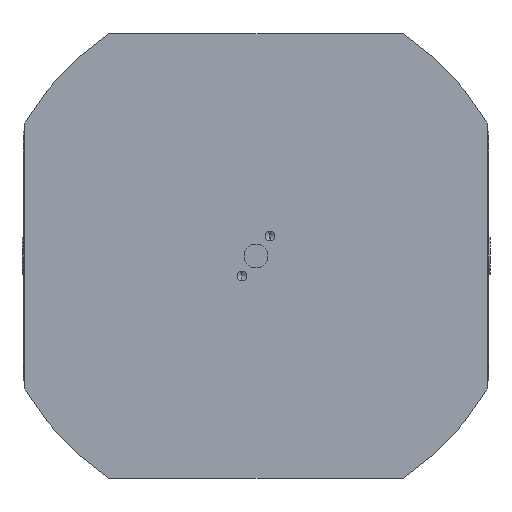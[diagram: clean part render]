
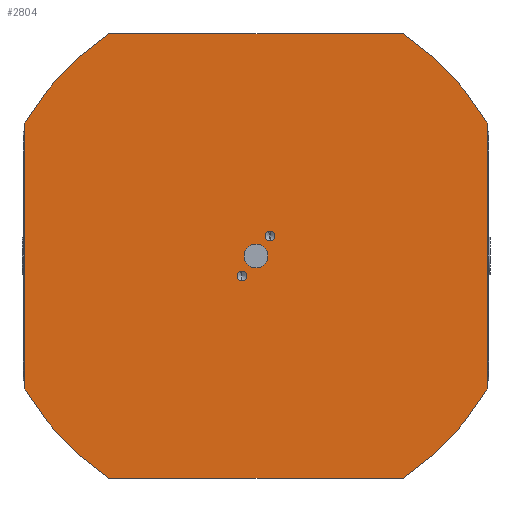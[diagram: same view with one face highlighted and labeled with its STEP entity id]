
A CAD part, front view. The second image highlights one B-rep face of the part: STEP entity #2804.
In plain terms, the highlighted planar face has unit normal (0, -1, 0).
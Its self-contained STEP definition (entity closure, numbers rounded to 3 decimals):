
#1 = CARTESIAN_POINT ( 'NONE',  ( 0., 0., 0. ) ) ;
#22 = ORIENTED_EDGE ( 'NONE', *, *, #2160, .F. ) ;
#27 = DIRECTION ( 'NONE',  ( 0., 0., 1. ) ) ;
#82 = EDGE_CURVE ( 'NONE', #3853, #4311, #911, .T. ) ;
#173 = VECTOR ( 'NONE', #5396, 1000. ) ;
#175 = DIRECTION ( 'NONE',  ( 0., 1., 0. ) ) ;
#309 = DIRECTION ( 'NONE',  ( 0., 0., -1. ) ) ;
#351 = EDGE_CURVE ( 'NONE', #4311, #5472, #4368, .T. ) ;
#390 = AXIS2_PLACEMENT_3D ( 'NONE', #4954, #4908, #1653 ) ;
#415 = EDGE_CURVE ( 'NONE', #976, #5455, #5235, .T. ) ;
#473 = ORIENTED_EDGE ( 'NONE', *, *, #82, .F. ) ;
#503 = AXIS2_PLACEMENT_3D ( 'NONE', #5118, #1420, #3787 ) ;
#561 = ORIENTED_EDGE ( 'NONE', *, *, #5637, .F. ) ;
#562 = VERTEX_POINT ( 'NONE', #5892 ) ;
#602 = DIRECTION ( 'NONE',  ( 0., 0., 1. ) ) ;
#630 = DIRECTION ( 'NONE',  ( 1., 0., 0. ) ) ;
#642 = CARTESIAN_POINT ( 'NONE',  ( 0., 0., 0. ) ) ;
#659 = VERTEX_POINT ( 'NONE', #4040 ) ;
#660 = DIRECTION ( 'NONE',  ( 0., 0., 1. ) ) ;
#674 = EDGE_CURVE ( 'NONE', #1472, #5748, #4001, .T. ) ;
#717 = ORIENTED_EDGE ( 'NONE', *, *, #6083, .F. ) ;
#743 = CARTESIAN_POINT ( 'NONE',  ( 78., 0., -75. ) ) ;
#825 = CARTESIAN_POINT ( 'NONE',  ( -4.735, 0., -6.762 ) ) ;
#830 = CARTESIAN_POINT ( 'NONE',  ( -78., 0., 44.9 ) ) ;
#911 = CIRCLE ( 'NONE', #3520, 90. ) ;
#972 = AXIS2_PLACEMENT_3D ( 'NONE', #5663, #2894, #3372 ) ;
#976 = VERTEX_POINT ( 'NONE', #1245 ) ;
#1192 = DIRECTION ( 'NONE',  ( 0., 0., -1. ) ) ;
#1216 = CARTESIAN_POINT ( 'NONE',  ( -78., 0., -75. ) ) ;
#1245 = CARTESIAN_POINT ( 'NONE',  ( 0., 0., 4.013 ) ) ;
#1288 = DIRECTION ( 'NONE',  ( 0., -1., 0. ) ) ;
#1373 = CARTESIAN_POINT ( 'NONE',  ( 49.749, 0., 75. ) ) ;
#1400 = CIRCLE ( 'NONE', #5678, 4.013 ) ;
#1420 = DIRECTION ( 'NONE',  ( 0., -1., 0. ) ) ;
#1472 = VERTEX_POINT ( 'NONE', #830 ) ;
#1653 = DIRECTION ( 'NONE',  ( 0., 0., 1. ) ) ;
#1807 = ORIENTED_EDGE ( 'NONE', *, *, #351, .F. ) ;
#1822 = DIRECTION ( 'NONE',  ( 0., 0., -1. ) ) ;
#1929 = ORIENTED_EDGE ( 'NONE', *, *, #5053, .F. ) ;
#2073 = EDGE_CURVE ( 'NONE', #5472, #562, #5971, .T. ) ;
#2106 = CARTESIAN_POINT ( 'NONE',  ( 0., 0., 0. ) ) ;
#2111 = AXIS2_PLACEMENT_3D ( 'NONE', #642, #3451, #602 ) ;
#2142 = VECTOR ( 'NONE', #630, 1000. ) ;
#2160 = EDGE_CURVE ( 'NONE', #4961, #5686, #3236, .T. ) ;
#2309 = AXIS2_PLACEMENT_3D ( 'NONE', #825, #1288, #1822 ) ;
#2422 = ORIENTED_EDGE ( 'NONE', *, *, #5621, .F. ) ;
#2512 = DIRECTION ( 'NONE',  ( 0., 0., 1. ) ) ;
#2536 = ORIENTED_EDGE ( 'NONE', *, *, #415, .F. ) ;
#2635 = DIRECTION ( 'NONE',  ( 0., -1., 0. ) ) ;
#2660 = EDGE_LOOP ( 'NONE', ( #1929, #3215 ) ) ;
#2703 = VECTOR ( 'NONE', #5405, 1000. ) ;
#2786 = AXIS2_PLACEMENT_3D ( 'NONE', #4523, #3583, #309 ) ;
#2804 = ADVANCED_FACE ( 'NONE', ( #6105, #4174, #5113, #3354 ), #2834, .F. ) ;
#2834 = PLANE ( 'NONE',  #5392 ) ;
#2859 = CARTESIAN_POINT ( 'NONE',  ( 0., 0., 0. ) ) ;
#2894 = DIRECTION ( 'NONE',  ( 0., -1., 0. ) ) ;
#2926 = DIRECTION ( 'NONE',  ( 0., 1., 0. ) ) ;
#3057 = CARTESIAN_POINT ( 'NONE',  ( -78., 0., 75. ) ) ;
#3058 = CARTESIAN_POINT ( 'NONE',  ( 78., 0., 44.9 ) ) ;
#3067 = ORIENTED_EDGE ( 'NONE', *, *, #2073, .F. ) ;
#3096 = CIRCLE ( 'NONE', #972, 1.65 ) ;
#3154 = CIRCLE ( 'NONE', #2309, 1.65 ) ;
#3190 = ORIENTED_EDGE ( 'NONE', *, *, #674, .F. ) ;
#3215 = ORIENTED_EDGE ( 'NONE', *, *, #3336, .F. ) ;
#3236 = CIRCLE ( 'NONE', #390, 90. ) ;
#3261 = VERTEX_POINT ( 'NONE', #5081 ) ;
#3276 = DIRECTION ( 'NONE',  ( 0., 0., 1. ) ) ;
#3305 = CARTESIAN_POINT ( 'NONE',  ( 0., 0., 0. ) ) ;
#3336 = EDGE_CURVE ( 'NONE', #3261, #659, #5295, .T. ) ;
#3354 = FACE_OUTER_BOUND ( 'NONE', #5017, .T. ) ;
#3372 = DIRECTION ( 'NONE',  ( 0., 0., -1. ) ) ;
#3440 = CARTESIAN_POINT ( 'NONE',  ( -78., 0., -75. ) ) ;
#3451 = DIRECTION ( 'NONE',  ( 0., 1., 0. ) ) ;
#3520 = AXIS2_PLACEMENT_3D ( 'NONE', #1, #3748, #3276 ) ;
#3549 = LINE ( 'NONE', #3057, #2142 ) ;
#3583 = DIRECTION ( 'NONE',  ( 0., -1., 0. ) ) ;
#3597 = CARTESIAN_POINT ( 'NONE',  ( 4.735, 0., 8.412 ) ) ;
#3614 = EDGE_CURVE ( 'NONE', #5748, #3853, #3549, .T. ) ;
#3748 = DIRECTION ( 'NONE',  ( 0., 1., 0. ) ) ;
#3787 = DIRECTION ( 'NONE',  ( 0., 0., -1. ) ) ;
#3803 = ORIENTED_EDGE ( 'NONE', *, *, #3614, .F. ) ;
#3853 = VERTEX_POINT ( 'NONE', #1373 ) ;
#3951 = CARTESIAN_POINT ( 'NONE',  ( 78., 0., -44.9 ) ) ;
#4001 = CIRCLE ( 'NONE', #4544, 90. ) ;
#4015 = CARTESIAN_POINT ( 'NONE',  ( 0., 0., 0. ) ) ;
#4040 = CARTESIAN_POINT ( 'NONE',  ( -4.735, 0., -8.412 ) ) ;
#4169 = EDGE_CURVE ( 'NONE', #5616, #5703, #3096, .T. ) ;
#4170 = EDGE_LOOP ( 'NONE', ( #561, #5702 ) ) ;
#4174 = FACE_BOUND ( 'NONE', #2660, .T. ) ;
#4311 = VERTEX_POINT ( 'NONE', #3058 ) ;
#4368 = LINE ( 'NONE', #743, #173 ) ;
#4400 = CARTESIAN_POINT ( 'NONE',  ( 0., 0., -4.013 ) ) ;
#4523 = CARTESIAN_POINT ( 'NONE',  ( 4.735, 0., 6.762 ) ) ;
#4533 = ORIENTED_EDGE ( 'NONE', *, *, #5906, .F. ) ;
#4544 = AXIS2_PLACEMENT_3D ( 'NONE', #3305, #175, #660 ) ;
#4656 = CARTESIAN_POINT ( 'NONE',  ( -49.749, 0., 75. ) ) ;
#4708 = EDGE_LOOP ( 'NONE', ( #2422, #2536 ) ) ;
#4709 = CIRCLE ( 'NONE', #2786, 1.65 ) ;
#4779 = DIRECTION ( 'NONE',  ( 0., 0., -1. ) ) ;
#4908 = DIRECTION ( 'NONE',  ( 0., 1., 0. ) ) ;
#4954 = CARTESIAN_POINT ( 'NONE',  ( 0., 0., 0. ) ) ;
#4961 = VERTEX_POINT ( 'NONE', #5820 ) ;
#5006 = LINE ( 'NONE', #3440, #5216 ) ;
#5017 = EDGE_LOOP ( 'NONE', ( #473, #3803, #3190, #4533, #22, #717, #3067, #1807 ) ) ;
#5053 = EDGE_CURVE ( 'NONE', #659, #3261, #3154, .T. ) ;
#5081 = CARTESIAN_POINT ( 'NONE',  ( -4.735, 0., -5.112 ) ) ;
#5113 = FACE_BOUND ( 'NONE', #4708, .T. ) ;
#5118 = CARTESIAN_POINT ( 'NONE',  ( -4.735, 0., -6.762 ) ) ;
#5216 = VECTOR ( 'NONE', #2512, 1000. ) ;
#5235 = CIRCLE ( 'NONE', #5274, 4.013 ) ;
#5248 = DIRECTION ( 'NONE',  ( 0., -1., 0. ) ) ;
#5274 = AXIS2_PLACEMENT_3D ( 'NONE', #2106, #5248, #4779 ) ;
#5295 = CIRCLE ( 'NONE', #503, 1.65 ) ;
#5392 = AXIS2_PLACEMENT_3D ( 'NONE', #2859, #2926, #27 ) ;
#5396 = DIRECTION ( 'NONE',  ( 0., 0., -1. ) ) ;
#5405 = DIRECTION ( 'NONE',  ( -1., 0., 0. ) ) ;
#5455 = VERTEX_POINT ( 'NONE', #4400 ) ;
#5472 = VERTEX_POINT ( 'NONE', #3951 ) ;
#5544 = CARTESIAN_POINT ( 'NONE',  ( -78., 0., -44.9 ) ) ;
#5616 = VERTEX_POINT ( 'NONE', #3597 ) ;
#5621 = EDGE_CURVE ( 'NONE', #5455, #976, #1400, .T. ) ;
#5637 = EDGE_CURVE ( 'NONE', #5703, #5616, #4709, .T. ) ;
#5663 = CARTESIAN_POINT ( 'NONE',  ( 4.735, 0., 6.762 ) ) ;
#5678 = AXIS2_PLACEMENT_3D ( 'NONE', #4015, #2635, #1192 ) ;
#5686 = VERTEX_POINT ( 'NONE', #5544 ) ;
#5702 = ORIENTED_EDGE ( 'NONE', *, *, #4169, .F. ) ;
#5703 = VERTEX_POINT ( 'NONE', #6042 ) ;
#5748 = VERTEX_POINT ( 'NONE', #4656 ) ;
#5820 = CARTESIAN_POINT ( 'NONE',  ( -49.749, 0., -75. ) ) ;
#5892 = CARTESIAN_POINT ( 'NONE',  ( 49.749, 0., -75. ) ) ;
#5897 = LINE ( 'NONE', #1216, #2703 ) ;
#5906 = EDGE_CURVE ( 'NONE', #5686, #1472, #5006, .T. ) ;
#5971 = CIRCLE ( 'NONE', #2111, 90. ) ;
#6042 = CARTESIAN_POINT ( 'NONE',  ( 4.735, 0., 5.112 ) ) ;
#6083 = EDGE_CURVE ( 'NONE', #562, #4961, #5897, .T. ) ;
#6105 = FACE_BOUND ( 'NONE', #4170, .T. ) ;
